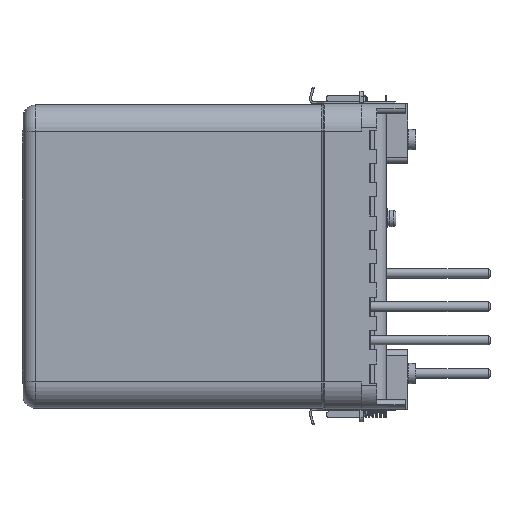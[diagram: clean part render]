
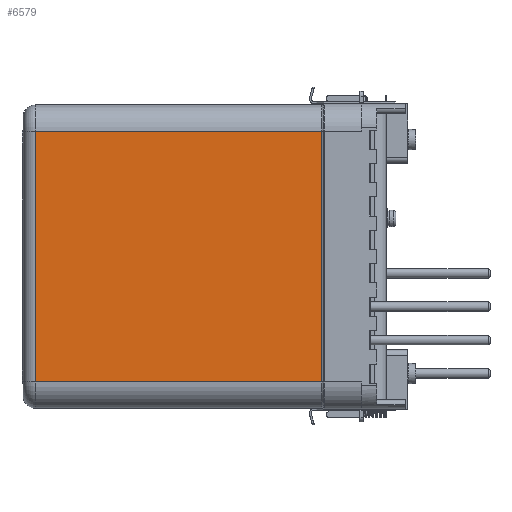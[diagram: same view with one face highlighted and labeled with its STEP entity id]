
A CAD part, left-side view. The second image highlights one B-rep face of the part: STEP entity #6579.
In plain terms, the highlighted planar face has unit normal (-1, 0, 0).
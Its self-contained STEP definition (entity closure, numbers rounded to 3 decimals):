
#6579=ADVANCED_FACE('',(#18023),#18025,.T.);
#18023=FACE_BOUND('',#18024,.T.);
#18024=EDGE_LOOP('',(#26052,#26053,#26054,#26055));
#18025=PLANE('',#18026);
#18026=AXIS2_PLACEMENT_3D('',#18027,#18028,#18029);
#18027=CARTESIAN_POINT('',(-56.5,19.5,-52.5));
#18028=DIRECTION('',(-1.,0.,0.));
#18029=DIRECTION('',(0.,0.,1.));
#26052=ORIENTED_EDGE('',*,*,#28394,.T.);
#26053=ORIENTED_EDGE('',*,*,#28314,.F.);
#26054=ORIENTED_EDGE('',*,*,#28302,.F.);
#26055=ORIENTED_EDGE('',*,*,#28353,.T.);
#28302=EDGE_CURVE('',#31555,#31449,#31634,.F.);
#28314=EDGE_CURVE('',#31449,#31652,#31654,.T.);
#28353=EDGE_CURVE('',#31555,#31717,#31719,.T.);
#28394=EDGE_CURVE('',#31717,#31652,#31798,.F.);
#31449=VERTEX_POINT('',#39825);
#31555=VERTEX_POINT('',#40337);
#31634=LINE('',#40546,#40547);
#31652=VERTEX_POINT('',#40591);
#31654=LINE('',#40596,#40597);
#31717=VERTEX_POINT('',#40758);
#31719=LINE('',#40763,#40764);
#31798=LINE('',#41162,#41163);
#39825=CARTESIAN_POINT('',(-56.5,35.866,-52.5));
#40337=CARTESIAN_POINT('',(-56.5,35.866,52.5));
#40546=CARTESIAN_POINT('',(-56.5,35.866,-52.5));
#40547=VECTOR('',#40548,1.);
#40548=DIRECTION('',(0.,0.,1.));
#40591=CARTESIAN_POINT('',(-56.5,156.,-52.5));
#40596=CARTESIAN_POINT('',(-56.5,35.866,-52.5));
#40597=VECTOR('',#40598,1.);
#40598=DIRECTION('',(0.,1.,0.));
#40758=CARTESIAN_POINT('',(-56.5,156.,52.5));
#40763=CARTESIAN_POINT('',(-56.5,35.866,52.5));
#40764=VECTOR('',#40765,1.);
#40765=DIRECTION('',(0.,1.,0.));
#41162=CARTESIAN_POINT('',(-56.5,156.,-52.5));
#41163=VECTOR('',#41164,1.);
#41164=DIRECTION('',(0.,0.,1.));
